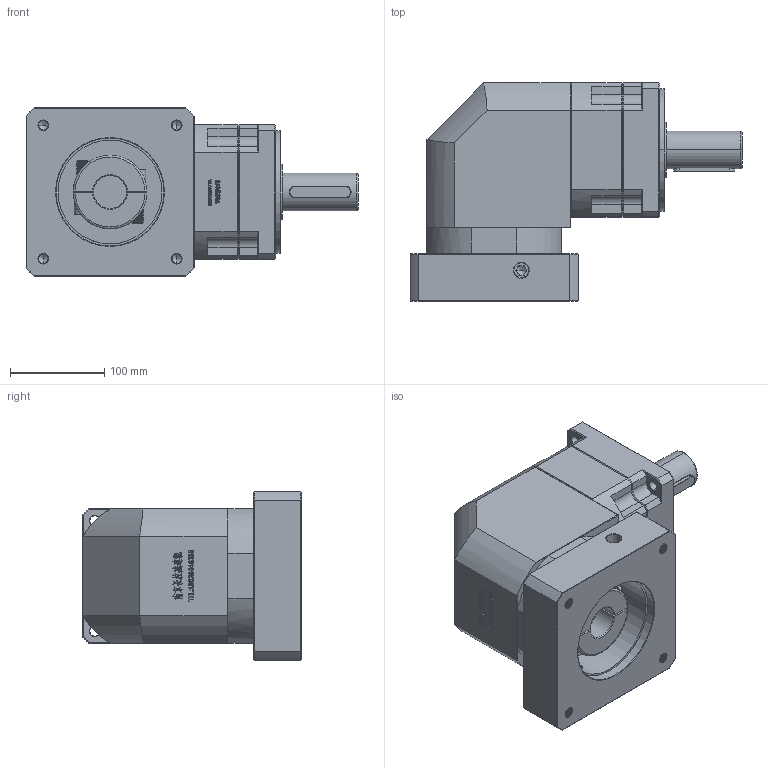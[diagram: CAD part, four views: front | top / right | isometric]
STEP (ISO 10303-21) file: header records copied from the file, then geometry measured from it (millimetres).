
FILE_DESCRIPTION (( 'STEP AP214' ), '1' );
FILE_NAME ('ZBR142A-D40-L1-35-114.3-200-M12.step', '2023-03-18T09:21:43', ( '' ), ( '' ), 'SwSTEP 2.0', 'SolidWorks 2016', '' );
FILE_SCHEMA (( 'AUTOMOTIVE_DESIGN' ));
Length unit declared in the file: millimetre
Products named in the file (1): ZBR142A-D40-L1-35-114.3-200-M12
Bounding box: 351.7 x 231 x 178 mm (x, y, z)
Volume: 5983991.2 mm3; surface area: 426735.5 mm2
Topology: 6 solids, 6 shells, 2900 faces, 7741 edges, 4990 vertices
Faces by surface type: plane 1540, bspline 592, cylinder 414, cone 332, torus 22
Entity records: 162475 total; most frequent: CARTESIAN_POINT 62877, ORIENTED_EDGE 15422, DIRECTION 11684, EDGE_CURVE 7711, LINE 5214, VECTOR 5214, VERTEX_POINT 4990, AXIS2_PLACEMENT_3D 3235
